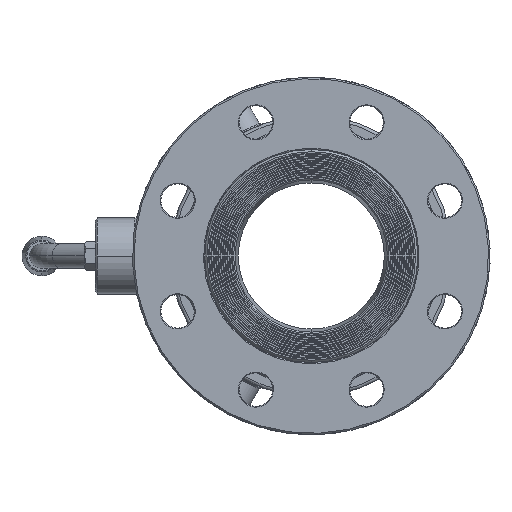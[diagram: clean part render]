
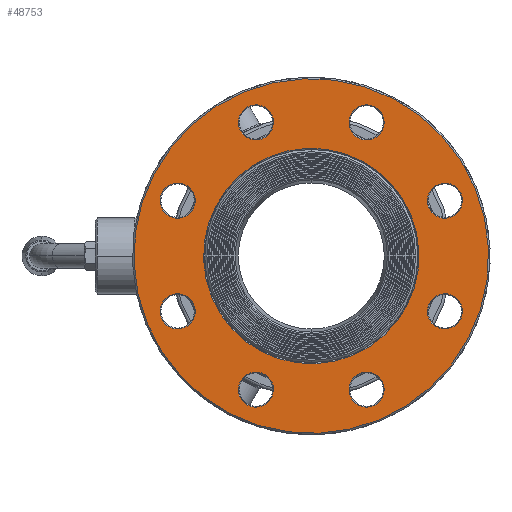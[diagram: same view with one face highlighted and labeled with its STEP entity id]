
A CAD part, left-side view. The second image highlights one B-rep face of the part: STEP entity #48753.
In plain terms, the highlighted planar face has unit normal (-1, 0, 0).
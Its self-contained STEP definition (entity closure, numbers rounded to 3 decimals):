
#4810=CARTESIAN_POINT('',(-93.,0.,0.));
#4811=DIRECTION('',(-1.,0.,0.));
#4812=DIRECTION('',(0.,-0.924,0.383));
#4813=AXIS2_PLACEMENT_3D('',#4810,#4811,#4812);
#4818=CARTESIAN_POINT('',(-93.,0.,0.));
#4819=DIRECTION('',(-1.,0.,0.));
#4820=DIRECTION('',(0.,0.924,-0.383));
#4821=AXIS2_PLACEMENT_3D('',#4818,#4819,#4820);
#4826=CARTESIAN_POINT('',(-93.,0.,0.));
#4827=DIRECTION('',(-1.,0.,0.));
#4828=DIRECTION('',(0.,-0.924,0.383));
#4829=AXIS2_PLACEMENT_3D('',#4826,#4827,#4828);
#4834=CARTESIAN_POINT('',(-93.,0.,0.));
#4835=DIRECTION('',(-1.,0.,0.));
#4836=DIRECTION('',(0.,0.924,-0.383));
#4837=AXIS2_PLACEMENT_3D('',#4834,#4835,#4836);
#4842=CARTESIAN_POINT('',(-93.,87.769,36.355));
#4843=DIRECTION('',(1.,0.,0.));
#4844=DIRECTION('',(0.,0.924,-0.383));
#4845=AXIS2_PLACEMENT_3D('',#4842,#4843,#4844);
#4850=CARTESIAN_POINT('',(-93.,87.769,36.355));
#4851=DIRECTION('',(1.,0.,0.));
#4852=DIRECTION('',(0.,-0.924,0.383));
#4853=AXIS2_PLACEMENT_3D('',#4850,#4851,#4852);
#4858=CARTESIAN_POINT('',(-93.,87.769,-36.355));
#4859=DIRECTION('',(1.,0.,0.));
#4860=DIRECTION('',(0.,0.924,-0.383));
#4861=AXIS2_PLACEMENT_3D('',#4858,#4859,#4860);
#4866=CARTESIAN_POINT('',(-93.,87.769,-36.355));
#4867=DIRECTION('',(1.,0.,0.));
#4868=DIRECTION('',(0.,-0.924,0.383));
#4869=AXIS2_PLACEMENT_3D('',#4866,#4867,#4868);
#4874=CARTESIAN_POINT('',(-93.,36.355,-87.769));
#4875=DIRECTION('',(1.,0.,0.));
#4876=DIRECTION('',(0.,0.924,-0.383));
#4877=AXIS2_PLACEMENT_3D('',#4874,#4875,#4876);
#4882=CARTESIAN_POINT('',(-93.,36.355,-87.769));
#4883=DIRECTION('',(1.,0.,0.));
#4884=DIRECTION('',(0.,-0.924,0.383));
#4885=AXIS2_PLACEMENT_3D('',#4882,#4883,#4884);
#4890=CARTESIAN_POINT('',(-93.,-36.355,-87.769));
#4891=DIRECTION('',(1.,0.,0.));
#4892=DIRECTION('',(0.,0.924,-0.383));
#4893=AXIS2_PLACEMENT_3D('',#4890,#4891,#4892);
#4898=CARTESIAN_POINT('',(-93.,-36.355,-87.769));
#4899=DIRECTION('',(1.,0.,0.));
#4900=DIRECTION('',(0.,-0.924,0.383));
#4901=AXIS2_PLACEMENT_3D('',#4898,#4899,#4900);
#4906=CARTESIAN_POINT('',(-93.,-87.769,-36.355));
#4907=DIRECTION('',(1.,0.,0.));
#4908=DIRECTION('',(0.,0.924,-0.383));
#4909=AXIS2_PLACEMENT_3D('',#4906,#4907,#4908);
#4914=CARTESIAN_POINT('',(-93.,-87.769,-36.355));
#4915=DIRECTION('',(1.,0.,0.));
#4916=DIRECTION('',(0.,-0.924,0.383));
#4917=AXIS2_PLACEMENT_3D('',#4914,#4915,#4916);
#4922=CARTESIAN_POINT('',(-93.,-87.769,36.355));
#4923=DIRECTION('',(1.,0.,0.));
#4924=DIRECTION('',(0.,0.924,-0.383));
#4925=AXIS2_PLACEMENT_3D('',#4922,#4923,#4924);
#4930=CARTESIAN_POINT('',(-93.,-87.769,36.355));
#4931=DIRECTION('',(1.,0.,0.));
#4932=DIRECTION('',(0.,-0.924,0.383));
#4933=AXIS2_PLACEMENT_3D('',#4930,#4931,#4932);
#4938=CARTESIAN_POINT('',(-93.,-36.355,87.769));
#4939=DIRECTION('',(1.,0.,0.));
#4940=DIRECTION('',(0.,0.924,-0.383));
#4941=AXIS2_PLACEMENT_3D('',#4938,#4939,#4940);
#4946=CARTESIAN_POINT('',(-93.,-36.355,87.769));
#4947=DIRECTION('',(1.,0.,0.));
#4948=DIRECTION('',(0.,-0.924,0.383));
#4949=AXIS2_PLACEMENT_3D('',#4946,#4947,#4948);
#4954=CARTESIAN_POINT('',(-93.,36.355,87.769));
#4955=DIRECTION('',(1.,0.,0.));
#4956=DIRECTION('',(0.,0.924,-0.383));
#4957=AXIS2_PLACEMENT_3D('',#4954,#4955,#4956);
#4962=CARTESIAN_POINT('',(-93.,36.355,87.769));
#4963=DIRECTION('',(1.,0.,0.));
#4964=DIRECTION('',(0.,-0.924,0.383));
#4965=AXIS2_PLACEMENT_3D('',#4962,#4963,#4964);
#44579=CARTESIAN_POINT('',(-93.,-65.365,27.075));
#44580=CARTESIAN_POINT('',(-93.,65.365,-27.075));
#44581=VERTEX_POINT('',#44579);
#44582=VERTEX_POINT('',#44580);
#44599=CARTESIAN_POINT('',(-93.,-107.632,44.583));
#44600=CARTESIAN_POINT('',(-93.,107.632,-44.583));
#44601=VERTEX_POINT('',#44599);
#44602=VERTEX_POINT('',#44600);
#44671=CARTESIAN_POINT('',(-93.,98.393,31.954));
#44672=CARTESIAN_POINT('',(-93.,77.144,40.756));
#44673=VERTEX_POINT('',#44671);
#44674=VERTEX_POINT('',#44672);
#44679=CARTESIAN_POINT('',(-93.,98.393,-40.756));
#44680=CARTESIAN_POINT('',(-93.,77.144,-31.954));
#44681=VERTEX_POINT('',#44679);
#44682=VERTEX_POINT('',#44680);
#44687=CARTESIAN_POINT('',(-93.,46.979,-92.169));
#44688=CARTESIAN_POINT('',(-93.,25.731,-83.368));
#44689=VERTEX_POINT('',#44687);
#44690=VERTEX_POINT('',#44688);
#44695=CARTESIAN_POINT('',(-93.,-25.731,-92.169));
#44696=CARTESIAN_POINT('',(-93.,-46.979,-83.368));
#44697=VERTEX_POINT('',#44695);
#44698=VERTEX_POINT('',#44696);
#44703=CARTESIAN_POINT('',(-93.,-77.144,-40.756));
#44704=CARTESIAN_POINT('',(-93.,-98.393,-31.954));
#44705=VERTEX_POINT('',#44703);
#44706=VERTEX_POINT('',#44704);
#44711=CARTESIAN_POINT('',(-93.,-77.144,31.954));
#44712=CARTESIAN_POINT('',(-93.,-98.393,40.756));
#44713=VERTEX_POINT('',#44711);
#44714=VERTEX_POINT('',#44712);
#44719=CARTESIAN_POINT('',(-93.,-25.731,83.368));
#44720=CARTESIAN_POINT('',(-93.,-46.979,92.169));
#44721=VERTEX_POINT('',#44719);
#44722=VERTEX_POINT('',#44720);
#44727=CARTESIAN_POINT('',(-93.,46.979,83.368));
#44728=CARTESIAN_POINT('',(-93.,25.731,92.169));
#44729=VERTEX_POINT('',#44727);
#44730=VERTEX_POINT('',#44728);
#48690=CARTESIAN_POINT('',(-93.,0.,0.));
#48691=DIRECTION('',(-1.,0.,0.));
#48692=DIRECTION('',(0.,0.924,-0.383));
#48693=AXIS2_PLACEMENT_3D('',#48690,#48691,#48692);
#48694=PLANE('',#48693);
#48696=ORIENTED_EDGE('',*,*,#48695,.F.);
#48698=ORIENTED_EDGE('',*,*,#48697,.F.);
#48699=EDGE_LOOP('',(#48696,#48698));
#48700=FACE_OUTER_BOUND('',#48699,.F.);
#48701=ORIENTED_EDGE('',*,*,#48684,.T.);
#48702=ORIENTED_EDGE('',*,*,#48654,.T.);
#48703=EDGE_LOOP('',(#48701,#48702));
#48704=FACE_BOUND('',#48703,.F.);
#48706=ORIENTED_EDGE('',*,*,#48705,.F.);
#48708=ORIENTED_EDGE('',*,*,#48707,.F.);
#48709=EDGE_LOOP('',(#48706,#48708));
#48710=FACE_BOUND('',#48709,.F.);
#48712=ORIENTED_EDGE('',*,*,#48711,.F.);
#48714=ORIENTED_EDGE('',*,*,#48713,.F.);
#48715=EDGE_LOOP('',(#48712,#48714));
#48716=FACE_BOUND('',#48715,.F.);
#48718=ORIENTED_EDGE('',*,*,#48717,.F.);
#48720=ORIENTED_EDGE('',*,*,#48719,.F.);
#48721=EDGE_LOOP('',(#48718,#48720));
#48722=FACE_BOUND('',#48721,.F.);
#48724=ORIENTED_EDGE('',*,*,#48723,.F.);
#48726=ORIENTED_EDGE('',*,*,#48725,.F.);
#48727=EDGE_LOOP('',(#48724,#48726));
#48728=FACE_BOUND('',#48727,.F.);
#48730=ORIENTED_EDGE('',*,*,#48729,.F.);
#48732=ORIENTED_EDGE('',*,*,#48731,.F.);
#48733=EDGE_LOOP('',(#48730,#48732));
#48734=FACE_BOUND('',#48733,.F.);
#48736=ORIENTED_EDGE('',*,*,#48735,.F.);
#48738=ORIENTED_EDGE('',*,*,#48737,.F.);
#48739=EDGE_LOOP('',(#48736,#48738));
#48740=FACE_BOUND('',#48739,.F.);
#48742=ORIENTED_EDGE('',*,*,#48741,.F.);
#48744=ORIENTED_EDGE('',*,*,#48743,.F.);
#48745=EDGE_LOOP('',(#48742,#48744));
#48746=FACE_BOUND('',#48745,.F.);
#48748=ORIENTED_EDGE('',*,*,#48747,.F.);
#48750=ORIENTED_EDGE('',*,*,#48749,.F.);
#48751=EDGE_LOOP('',(#48748,#48750));
#48752=FACE_BOUND('',#48751,.F.);
#48753=ADVANCED_FACE('',(#48700,#48704,#48710,#48716,#48722,#48728,#48734,
#48740,#48746,#48752),#48694,.T.);
#4814=CIRCLE('',#4813,116.5);
#4822=CIRCLE('',#4821,116.5);
#4830=CIRCLE('',#4829,70.75);
#4838=CIRCLE('',#4837,70.75);
#4846=CIRCLE('',#4845,11.5);
#4854=CIRCLE('',#4853,11.5);
#4862=CIRCLE('',#4861,11.5);
#4870=CIRCLE('',#4869,11.5);
#4878=CIRCLE('',#4877,11.5);
#4886=CIRCLE('',#4885,11.5);
#4894=CIRCLE('',#4893,11.5);
#4902=CIRCLE('',#4901,11.5);
#4910=CIRCLE('',#4909,11.5);
#4918=CIRCLE('',#4917,11.5);
#4926=CIRCLE('',#4925,11.5);
#4934=CIRCLE('',#4933,11.5);
#4942=CIRCLE('',#4941,11.5);
#4950=CIRCLE('',#4949,11.5);
#4958=CIRCLE('',#4957,11.5);
#4966=CIRCLE('',#4965,11.5);
#48654=EDGE_CURVE('',#44582,#44581,#4838,.T.);
#48684=EDGE_CURVE('',#44581,#44582,#4830,.T.);
#48695=EDGE_CURVE('',#44601,#44602,#4814,.T.);
#48697=EDGE_CURVE('',#44602,#44601,#4822,.T.);
#48705=EDGE_CURVE('',#44673,#44674,#4846,.T.);
#48707=EDGE_CURVE('',#44674,#44673,#4854,.T.);
#48711=EDGE_CURVE('',#44681,#44682,#4862,.T.);
#48713=EDGE_CURVE('',#44682,#44681,#4870,.T.);
#48717=EDGE_CURVE('',#44689,#44690,#4878,.T.);
#48719=EDGE_CURVE('',#44690,#44689,#4886,.T.);
#48723=EDGE_CURVE('',#44697,#44698,#4894,.T.);
#48725=EDGE_CURVE('',#44698,#44697,#4902,.T.);
#48729=EDGE_CURVE('',#44705,#44706,#4910,.T.);
#48731=EDGE_CURVE('',#44706,#44705,#4918,.T.);
#48735=EDGE_CURVE('',#44713,#44714,#4926,.T.);
#48737=EDGE_CURVE('',#44714,#44713,#4934,.T.);
#48741=EDGE_CURVE('',#44721,#44722,#4942,.T.);
#48743=EDGE_CURVE('',#44722,#44721,#4950,.T.);
#48747=EDGE_CURVE('',#44729,#44730,#4958,.T.);
#48749=EDGE_CURVE('',#44730,#44729,#4966,.T.);
